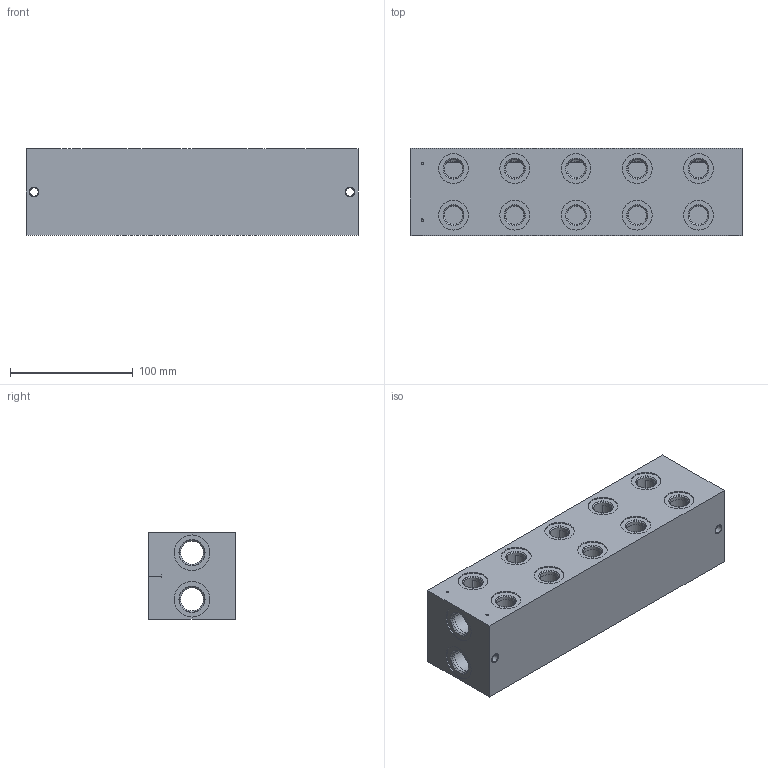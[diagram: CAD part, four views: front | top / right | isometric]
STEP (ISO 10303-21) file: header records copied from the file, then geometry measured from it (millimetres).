
FILE_DESCRIPTION((''),'2;1');
FILE_NAME('27563000','2015-11-27T',('Ahcz.brigadnik05'),(''),'PRO/ENGINEER BY PARAMETRIC TECHNOLOGY CORPORATION, 2015110','PRO/ENGINEER BY PARAMETRIC TECHNOLOGY CORPORATION, 2015110','');
FILE_SCHEMA(('AUTOMOTIVE_DESIGN { 1 0 10303 214 1 1 1 1 }'));
Length unit declared in the file: millimetre
Products named in the file (1): 27563000
Bounding box: 271 x 71 x 71 mm (x, y, z)
Volume: 452517.3 mm3; surface area: 176522 mm2
Topology: 1 solids, 41 shells, 347 faces, 1363 edges, 1344 vertices
Faces by surface type: cylinder 238, plane 70, cone 39
Entity records: 19952 total; most frequent: CARTESIAN_POINT 4030, DIRECTION 2528, ORIENTED_EDGE 1736, PRESENTATION_STYLE_ASSIGNMENT 1445, STYLED_ITEM 1445, CURVE_STYLE 1398, EDGE_CURVE 948, AXIS2_PLACEMENT_3D 894
